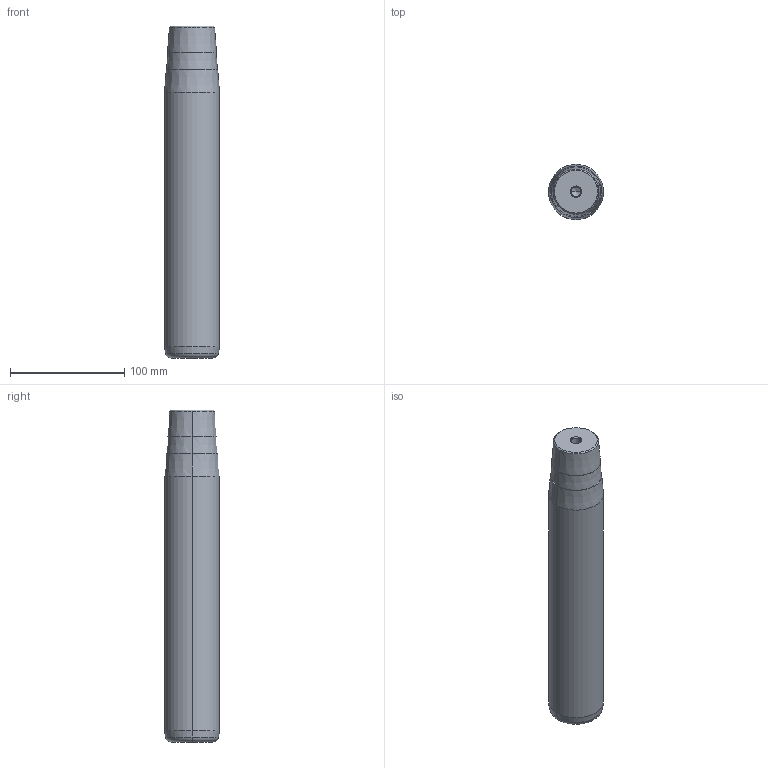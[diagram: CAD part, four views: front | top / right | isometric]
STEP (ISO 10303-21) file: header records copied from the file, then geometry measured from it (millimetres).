
FILE_DESCRIPTION(('CATIA V5 STEP Exchange'),'2;1');
FILE_NAME('C:\Users\Utente\Desktop\IO LAVORO\3D X SITO CF\X SITO\722\722-48x250x290.stp','2021-01-08T15:01:33+00:00',('none'),('none'),'CATIA Version 5 Release 20 GA (IN-10)','CATIA V5 STEP AP203','none');
FILE_SCHEMA(('CONFIG_CONTROL_DESIGN'));
Length unit declared in the file: millimetre
Products named in the file (1): 722-48x250x290
Bounding box: 48 x 48 x 290 mm (x, y, z)
Volume: 501943.8 mm3; surface area: 46865.8 mm2
Topology: 1 solids, 1 shells, 32 faces, 66 edges, 34 vertices
Faces by surface type: cone 22, cylinder 6, plane 2, torus 2
Entity records: 854 total; most frequent: CARTESIAN_POINT 175, DIRECTION 124, ORIENTED_EDGE 124, AXIS2_PLACEMENT_3D 65, EDGE_CURVE 62, EDGE_LOOP 34, VERTEX_POINT 34, ADVANCED_FACE 32
